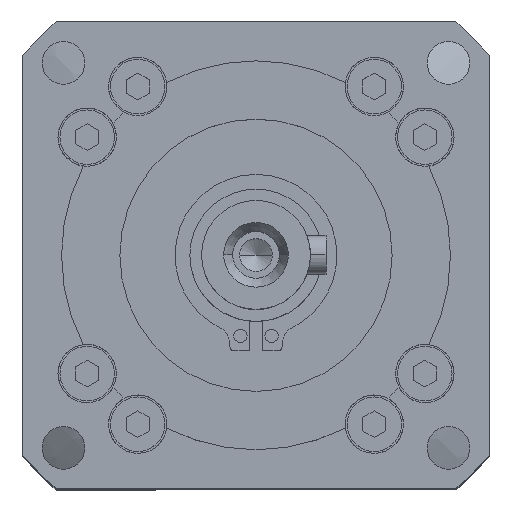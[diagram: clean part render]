
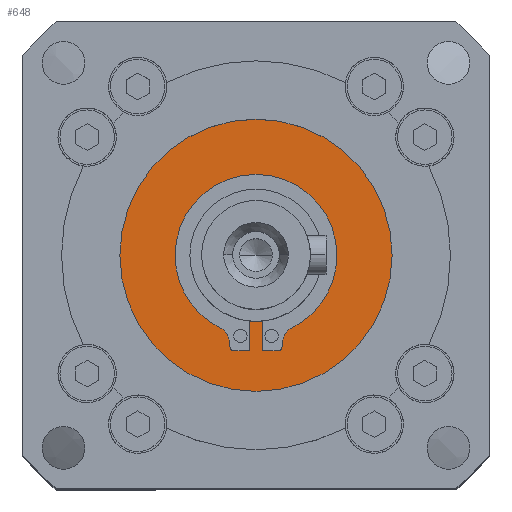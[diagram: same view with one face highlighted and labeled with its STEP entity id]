
A CAD part, top view. The second image highlights one B-rep face of the part: STEP entity #648.
In plain terms, the highlighted planar face has unit normal (0, 0, 1).
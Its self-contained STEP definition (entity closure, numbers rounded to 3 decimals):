
#233 = VERTEX_POINT ( 'NONE', #9734 ) ;
#527 = AXIS2_PLACEMENT_3D ( 'NONE', #2154, #17320, #4415 ) ;
#539 = CARTESIAN_POINT ( 'NONE',  ( 0., -12.257, -1. ) ) ;
#610 = EDGE_CURVE ( 'NONE', #24334, #26769, #23114, .T. ) ;
#648 = ADVANCED_FACE ( 'NONE', ( #6352, #20940 ), #1355, .F. ) ;
#768 = CIRCLE ( 'NONE', #7890, 2.5 ) ;
#810 = DIRECTION ( 'NONE',  ( 1., 0., 0. ) ) ;
#845 = DIRECTION ( 'NONE',  ( -1., 0., 0. ) ) ;
#874 = DIRECTION ( 'NONE',  ( 0., 0., -1. ) ) ;
#881 = CARTESIAN_POINT ( 'NONE',  ( 0., 0., -1. ) ) ;
#1306 = CIRCLE ( 'NONE', #16930, 8.5 ) ;
#1355 = PLANE ( 'NONE',  #7450 ) ;
#1654 = DIRECTION ( 'NONE',  ( -1., 0., 0. ) ) ;
#1688 = DIRECTION ( 'NONE',  ( 0., 0., 1. ) ) ;
#1714 = CARTESIAN_POINT ( 'NONE',  ( 0., 0., -1. ) ) ;
#2154 = CARTESIAN_POINT ( 'NONE',  ( 0., 0., -1. ) ) ;
#2177 = VERTEX_POINT ( 'NONE', #11983 ) ;
#2395 = CARTESIAN_POINT ( 'NONE',  ( 0.85, -12.257, -1. ) ) ;
#3169 = VERTEX_POINT ( 'NONE', #2395 ) ;
#3212 = CARTESIAN_POINT ( 'NONE',  ( -2.85, -12.257, -1. ) ) ;
#3265 = ORIENTED_EDGE ( 'NONE', *, *, #7480, .F. ) ;
#3470 = CIRCLE ( 'NONE', #5101, 2.5 ) ;
#3703 = LINE ( 'NONE', #539, #9459 ) ;
#3720 = DIRECTION ( 'NONE',  ( -1., 0., 0. ) ) ;
#3722 = EDGE_CURVE ( 'NONE', #7568, #19076, #27723, .T. ) ;
#3805 = DIRECTION ( 'NONE',  ( 0., 0., 1. ) ) ;
#4064 = LINE ( 'NONE', #11840, #17551 ) ;
#4126 = CARTESIAN_POINT ( 'NONE',  ( 0., 0., -1. ) ) ;
#4166 = ORIENTED_EDGE ( 'NONE', *, *, #26535, .T. ) ;
#4186 = LINE ( 'NONE', #11872, #20665 ) ;
#4415 = DIRECTION ( 'NONE',  ( 1., 0., 0. ) ) ;
#4661 = LINE ( 'NONE', #24352, #4668 ) ;
#4668 = VECTOR ( 'NONE', #20255, 1000. ) ;
#4883 = VECTOR ( 'NONE', #10708, 1000. ) ;
#5101 = AXIS2_PLACEMENT_3D ( 'NONE', #19694, #6803, #21773 ) ;
#5241 = CARTESIAN_POINT ( 'NONE',  ( -0.85, 0., -1. ) ) ;
#5324 = CARTESIAN_POINT ( 'NONE',  ( 10.4, 0., -1. ) ) ;
#6039 = ORIENTED_EDGE ( 'NONE', *, *, #13109, .F. ) ;
#6274 = AXIS2_PLACEMENT_3D ( 'NONE', #23779, #11000, #25872 ) ;
#6323 = DIRECTION ( 'NONE',  ( -1., 0., 0. ) ) ;
#6352 = FACE_BOUND ( 'NONE', #7059, .T. ) ;
#6431 = EDGE_LOOP ( 'NONE', ( #4166, #16112 ) ) ;
#6737 = EDGE_CURVE ( 'NONE', #3169, #7568, #4064, .T. ) ;
#6803 = DIRECTION ( 'NONE',  ( 0., 0., -1. ) ) ;
#6947 = CIRCLE ( 'NONE', #14978, 10.4 ) ;
#7059 = EDGE_LOOP ( 'NONE', ( #3265, #7691, #15190, #25163, #6039, #19657, #8781, #23108, #18099, #22002, #9332, #24805, #14613, #7834 ) ) ;
#7123 = DIRECTION ( 'NONE',  ( 0., 0., 1. ) ) ;
#7450 = AXIS2_PLACEMENT_3D ( 'NONE', #881, #874, #845 ) ;
#7480 = EDGE_CURVE ( 'NONE', #9416, #2177, #3703, .T. ) ;
#7538 = VERTEX_POINT ( 'NONE', #26215 ) ;
#7568 = VERTEX_POINT ( 'NONE', #23036 ) ;
#7691 = ORIENTED_EDGE ( 'NONE', *, *, #15233, .F. ) ;
#7834 = ORIENTED_EDGE ( 'NONE', *, *, #18109, .F. ) ;
#7890 = AXIS2_PLACEMENT_3D ( 'NONE', #21642, #8842, #23769 ) ;
#8781 = ORIENTED_EDGE ( 'NONE', *, *, #21995, .F. ) ;
#8842 = DIRECTION ( 'NONE',  ( 0., 0., -1. ) ) ;
#9332 = ORIENTED_EDGE ( 'NONE', *, *, #6737, .F. ) ;
#9416 = VERTEX_POINT ( 'NONE', #3212 ) ;
#9452 = DIRECTION ( 'NONE',  ( 0., 1., 0. ) ) ;
#9459 = VECTOR ( 'NONE', #810, 1000. ) ;
#9734 = CARTESIAN_POINT ( 'NONE',  ( 3.35, -11.497, -1. ) ) ;
#9735 = DIRECTION ( 'NONE',  ( -1., 0., 0. ) ) ;
#10245 = CARTESIAN_POINT ( 'NONE',  ( -2.85, -11.757, -1. ) ) ;
#10566 = LINE ( 'NONE', #5241, #13827 ) ;
#10585 = LINE ( 'NONE', #23218, #4883 ) ;
#10708 = DIRECTION ( 'NONE',  ( 0., -1., 0. ) ) ;
#11000 = DIRECTION ( 'NONE',  ( 0., 0., 1. ) ) ;
#11038 = DIRECTION ( 'NONE',  ( 0., 0., 1. ) ) ;
#11111 = CARTESIAN_POINT ( 'NONE',  ( 0., 0., -1. ) ) ;
#11659 = DIRECTION ( 'NONE',  ( 1., 0., 0. ) ) ;
#11840 = CARTESIAN_POINT ( 'NONE',  ( 0., -12.257, -1. ) ) ;
#11872 = CARTESIAN_POINT ( 'NONE',  ( 3.35, 0., -1. ) ) ;
#11983 = CARTESIAN_POINT ( 'NONE',  ( -0.85, -12.257, -1. ) ) ;
#13056 = EDGE_CURVE ( 'NONE', #19076, #233, #4186, .T. ) ;
#13109 = EDGE_CURVE ( 'NONE', #26769, #7538, #14324, .T. ) ;
#13827 = VECTOR ( 'NONE', #20280, 1000. ) ;
#13922 = VERTEX_POINT ( 'NONE', #25755 ) ;
#14324 = CIRCLE ( 'NONE', #21108, 10.4 ) ;
#14493 = CARTESIAN_POINT ( 'NONE',  ( 17.5, 0., -1. ) ) ;
#14613 = ORIENTED_EDGE ( 'NONE', *, *, #26456, .F. ) ;
#14978 = AXIS2_PLACEMENT_3D ( 'NONE', #19995, #7123, #22096 ) ;
#15138 = CARTESIAN_POINT ( 'NONE',  ( 4.716, -9.269, -1. ) ) ;
#15190 = ORIENTED_EDGE ( 'NONE', *, *, #17033, .F. ) ;
#15194 = AXIS2_PLACEMENT_3D ( 'NONE', #1714, #1688, #1654 ) ;
#15233 = EDGE_CURVE ( 'NONE', #20523, #9416, #15461, .T. ) ;
#15461 = CIRCLE ( 'NONE', #22586, 0.5 ) ;
#16112 = ORIENTED_EDGE ( 'NONE', *, *, #17885, .T. ) ;
#16301 = VERTEX_POINT ( 'NONE', #17429 ) ;
#16799 = CARTESIAN_POINT ( 'NONE',  ( -17.5, 0., -1. ) ) ;
#16930 = AXIS2_PLACEMENT_3D ( 'NONE', #4126, #19222, #6323 ) ;
#17033 = EDGE_CURVE ( 'NONE', #22596, #20523, #4661, .T. ) ;
#17320 = DIRECTION ( 'NONE',  ( 0., 0., 1. ) ) ;
#17414 = EDGE_CURVE ( 'NONE', #233, #20683, #3470, .T. ) ;
#17429 = CARTESIAN_POINT ( 'NONE',  ( 0.85, -8.457, -1. ) ) ;
#17551 = VECTOR ( 'NONE', #11659, 1000. ) ;
#17715 = CIRCLE ( 'NONE', #527, 17.5 ) ;
#17885 = EDGE_CURVE ( 'NONE', #26383, #20542, #17715, .T. ) ;
#18099 = ORIENTED_EDGE ( 'NONE', *, *, #13056, .F. ) ;
#18109 = EDGE_CURVE ( 'NONE', #2177, #13922, #10566, .T. ) ;
#19076 = VERTEX_POINT ( 'NONE', #22654 ) ;
#19222 = DIRECTION ( 'NONE',  ( 0., 0., 1. ) ) ;
#19657 = ORIENTED_EDGE ( 'NONE', *, *, #610, .F. ) ;
#19694 = CARTESIAN_POINT ( 'NONE',  ( 5.85, -11.497, -1. ) ) ;
#19995 = CARTESIAN_POINT ( 'NONE',  ( 0., 0., -1. ) ) ;
#20217 = EDGE_CURVE ( 'NONE', #7538, #22596, #768, .T. ) ;
#20255 = DIRECTION ( 'NONE',  ( 0., -1., 0. ) ) ;
#20280 = DIRECTION ( 'NONE',  ( 0., 1., 0. ) ) ;
#20523 = VERTEX_POINT ( 'NONE', #26872 ) ;
#20542 = VERTEX_POINT ( 'NONE', #14493 ) ;
#20665 = VECTOR ( 'NONE', #9452, 1000. ) ;
#20683 = VERTEX_POINT ( 'NONE', #15138 ) ;
#20940 = FACE_OUTER_BOUND ( 'NONE', #6431, .T. ) ;
#21108 = AXIS2_PLACEMENT_3D ( 'NONE', #11111, #11038, #9735 ) ;
#21387 = CARTESIAN_POINT ( 'NONE',  ( -3.35, -11.497, -1. ) ) ;
#21642 = CARTESIAN_POINT ( 'NONE',  ( -5.85, -11.497, -1. ) ) ;
#21773 = DIRECTION ( 'NONE',  ( -1., 0., 0. ) ) ;
#21995 = EDGE_CURVE ( 'NONE', #20683, #24334, #6947, .T. ) ;
#22002 = ORIENTED_EDGE ( 'NONE', *, *, #3722, .F. ) ;
#22096 = DIRECTION ( 'NONE',  ( -1., 0., 0. ) ) ;
#22586 = AXIS2_PLACEMENT_3D ( 'NONE', #10245, #3805, #3720 ) ;
#22594 = EDGE_CURVE ( 'NONE', #16301, #3169, #10585, .T. ) ;
#22596 = VERTEX_POINT ( 'NONE', #21387 ) ;
#22654 = CARTESIAN_POINT ( 'NONE',  ( 3.35, -11.757, -1. ) ) ;
#23036 = CARTESIAN_POINT ( 'NONE',  ( 2.85, -12.257, -1. ) ) ;
#23108 = ORIENTED_EDGE ( 'NONE', *, *, #17414, .F. ) ;
#23114 = CIRCLE ( 'NONE', #15194, 10.4 ) ;
#23139 = DIRECTION ( 'NONE',  ( -1., 0., 0. ) ) ;
#23162 = DIRECTION ( 'NONE',  ( 0., 0., 1. ) ) ;
#23218 = CARTESIAN_POINT ( 'NONE',  ( 0.85, 0., -1. ) ) ;
#23245 = CARTESIAN_POINT ( 'NONE',  ( 2.85, -11.757, -1. ) ) ;
#23769 = DIRECTION ( 'NONE',  ( -1., 0., 0. ) ) ;
#23779 = CARTESIAN_POINT ( 'NONE',  ( 0., 0., -1. ) ) ;
#24021 = AXIS2_PLACEMENT_3D ( 'NONE', #23245, #23162, #23139 ) ;
#24334 = VERTEX_POINT ( 'NONE', #5324 ) ;
#24352 = CARTESIAN_POINT ( 'NONE',  ( -3.35, 0., -1. ) ) ;
#24437 = CIRCLE ( 'NONE', #6274, 17.5 ) ;
#24805 = ORIENTED_EDGE ( 'NONE', *, *, #22594, .F. ) ;
#25163 = ORIENTED_EDGE ( 'NONE', *, *, #20217, .F. ) ;
#25755 = CARTESIAN_POINT ( 'NONE',  ( -0.85, -8.457, -1. ) ) ;
#25872 = DIRECTION ( 'NONE',  ( 1., 0., 0. ) ) ;
#26215 = CARTESIAN_POINT ( 'NONE',  ( -4.716, -9.269, -1. ) ) ;
#26383 = VERTEX_POINT ( 'NONE', #16799 ) ;
#26456 = EDGE_CURVE ( 'NONE', #13922, #16301, #1306, .T. ) ;
#26535 = EDGE_CURVE ( 'NONE', #20542, #26383, #24437, .T. ) ;
#26769 = VERTEX_POINT ( 'NONE', #26887 ) ;
#26872 = CARTESIAN_POINT ( 'NONE',  ( -3.35, -11.757, -1. ) ) ;
#26887 = CARTESIAN_POINT ( 'NONE',  ( -10.4, 0., -1. ) ) ;
#27723 = CIRCLE ( 'NONE', #24021, 0.5 ) ;
